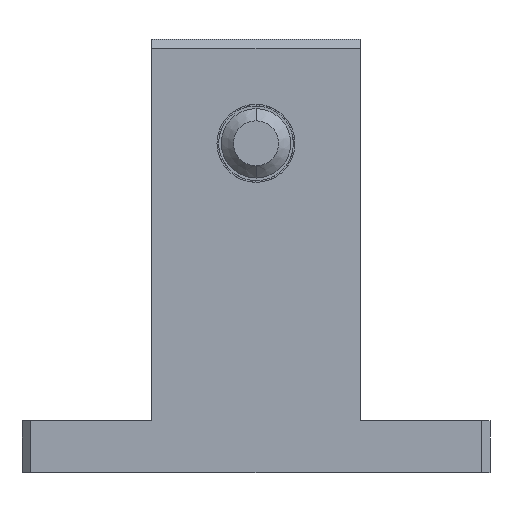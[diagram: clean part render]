
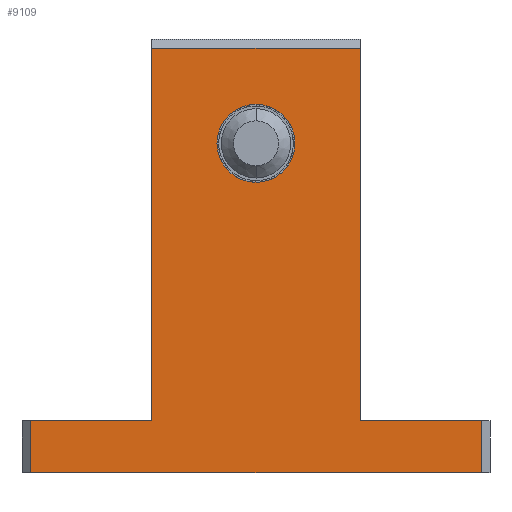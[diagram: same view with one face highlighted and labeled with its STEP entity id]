
A CAD part, front view. The second image highlights one B-rep face of the part: STEP entity #9109.
In plain terms, the highlighted planar face has unit normal (0, -1, 0).
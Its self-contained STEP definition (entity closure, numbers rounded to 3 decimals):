
#55 = VERTEX_POINT ( 'NONE', #5987 ) ;
#174 = DIRECTION ( 'NONE',  ( 1., 0., 0. ) ) ;
#234 = FACE_OUTER_BOUND ( 'NONE', #9952, .T. ) ;
#367 = CARTESIAN_POINT ( 'NONE',  ( -2.006, 12.932, 4.25 ) ) ;
#671 = VECTOR ( 'NONE', #11579, 1000. ) ;
#686 = DIRECTION ( 'NONE',  ( 0., 0., 1. ) ) ;
#784 = DIRECTION ( 'NONE',  ( 0., 0., 1. ) ) ;
#842 = VECTOR ( 'NONE', #3849, 1000. ) ;
#907 = DIRECTION ( 'NONE',  ( 0., -1., 0. ) ) ;
#1164 = DIRECTION ( 'NONE',  ( 0., 0., 1. ) ) ;
#1353 = EDGE_CURVE ( 'NONE', #8948, #9796, #7242, .T. ) ;
#1359 = VERTEX_POINT ( 'NONE', #9876 ) ;
#1493 = CARTESIAN_POINT ( 'NONE',  ( -2.006, 12.932, -12.5 ) ) ;
#1949 = CARTESIAN_POINT ( 'NONE',  ( -2.006, 12.932, 6.5 ) ) ;
#1982 = ORIENTED_EDGE ( 'NONE', *, *, #3256, .T. ) ;
#1987 = CIRCLE ( 'NONE', #3393, 2.25 ) ;
#2103 = VECTOR ( 'NONE', #1164, 1000. ) ;
#2620 = FACE_BOUND ( 'NONE', #10262, .T. ) ;
#2760 = VECTOR ( 'NONE', #174, 1000. ) ;
#2803 = LINE ( 'NONE', #11362, #5308 ) ;
#2858 = DIRECTION ( 'NONE',  ( 0., 0., 1. ) ) ;
#2940 = ORIENTED_EDGE ( 'NONE', *, *, #5292, .F. ) ;
#3002 = CARTESIAN_POINT ( 'NONE',  ( -15.006, 12.932, -9.5 ) ) ;
#3060 = CARTESIAN_POINT ( 'NONE',  ( 10.994, 12.932, -9.5 ) ) ;
#3125 = CARTESIAN_POINT ( 'NONE',  ( 3.994, 12.932, -9.5 ) ) ;
#3256 = EDGE_CURVE ( 'NONE', #7042, #9073, #7763, .T. ) ;
#3393 = AXIS2_PLACEMENT_3D ( 'NONE', #1949, #8484, #2858 ) ;
#3513 = AXIS2_PLACEMENT_3D ( 'NONE', #11741, #6201, #686 ) ;
#3576 = EDGE_CURVE ( 'NONE', #8948, #6788, #2803, .T. ) ;
#3672 = ORIENTED_EDGE ( 'NONE', *, *, #5838, .T. ) ;
#3830 = VERTEX_POINT ( 'NONE', #4106 ) ;
#3849 = DIRECTION ( 'NONE',  ( -1., 0., 0. ) ) ;
#4026 = EDGE_CURVE ( 'NONE', #7042, #3830, #7744, .T. ) ;
#4106 = CARTESIAN_POINT ( 'NONE',  ( 3.994, 12.932, 12. ) ) ;
#4259 = CARTESIAN_POINT ( 'NONE',  ( -8.006, 12.932, 12. ) ) ;
#4533 = AXIS2_PLACEMENT_3D ( 'NONE', #6433, #907, #7380 ) ;
#5239 = EDGE_CURVE ( 'NONE', #9073, #8174, #5765, .T. ) ;
#5292 = EDGE_CURVE ( 'NONE', #1359, #8174, #11686, .T. ) ;
#5308 = VECTOR ( 'NONE', #11776, 1000. ) ;
#5383 = CARTESIAN_POINT ( 'NONE',  ( 3.994, 12.932, 1.5 ) ) ;
#5604 = DIRECTION ( 'NONE',  ( -1., 0., 0. ) ) ;
#5640 = CARTESIAN_POINT ( 'NONE',  ( 7.744, 12.932, -9.5 ) ) ;
#5765 = LINE ( 'NONE', #9480, #842 ) ;
#5785 = CARTESIAN_POINT ( 'NONE',  ( -15.006, 12.932, -0.25 ) ) ;
#5838 = EDGE_CURVE ( 'NONE', #9796, #3830, #10072, .T. ) ;
#5987 = CARTESIAN_POINT ( 'NONE',  ( -2.006, 12.932, 8.75 ) ) ;
#6125 = PLANE ( 'NONE',  #3513 ) ;
#6201 = DIRECTION ( 'NONE',  ( 0., 1., 0. ) ) ;
#6390 = EDGE_CURVE ( 'NONE', #11764, #55, #1987, .T. ) ;
#6433 = CARTESIAN_POINT ( 'NONE',  ( -2.006, 12.932, 6.5 ) ) ;
#6788 = VERTEX_POINT ( 'NONE', #9461 ) ;
#6944 = VECTOR ( 'NONE', #5604, 1000. ) ;
#7042 = VERTEX_POINT ( 'NONE', #4259 ) ;
#7088 = ORIENTED_EDGE ( 'NONE', *, *, #6390, .F. ) ;
#7242 = LINE ( 'NONE', #5640, #6944 ) ;
#7380 = DIRECTION ( 'NONE',  ( 0., 0., 1. ) ) ;
#7418 = ORIENTED_EDGE ( 'NONE', *, *, #9246, .F. ) ;
#7590 = VECTOR ( 'NONE', #784, 1000. ) ;
#7744 = LINE ( 'NONE', #10338, #2760 ) ;
#7763 = LINE ( 'NONE', #8556, #671 ) ;
#7997 = DIRECTION ( 'NONE',  ( -1., 0., 0. ) ) ;
#8174 = VERTEX_POINT ( 'NONE', #3002 ) ;
#8197 = CIRCLE ( 'NONE', #4533, 2.25 ) ;
#8474 = LINE ( 'NONE', #1493, #10623 ) ;
#8484 = DIRECTION ( 'NONE',  ( 0., -1., 0. ) ) ;
#8556 = CARTESIAN_POINT ( 'NONE',  ( -8.006, 12.932, 1.5 ) ) ;
#8948 = VERTEX_POINT ( 'NONE', #3060 ) ;
#9073 = VERTEX_POINT ( 'NONE', #11666 ) ;
#9109 = ADVANCED_FACE ( 'NONE', ( #2620, #234 ), #6125, .F. ) ;
#9246 = EDGE_CURVE ( 'NONE', #55, #11764, #8197, .T. ) ;
#9461 = CARTESIAN_POINT ( 'NONE',  ( 10.994, 12.932, -12.5 ) ) ;
#9480 = CARTESIAN_POINT ( 'NONE',  ( -11.756, 12.932, -9.5 ) ) ;
#9527 = ORIENTED_EDGE ( 'NONE', *, *, #3576, .F. ) ;
#9796 = VERTEX_POINT ( 'NONE', #3125 ) ;
#9876 = CARTESIAN_POINT ( 'NONE',  ( -15.006, 12.932, -12.5 ) ) ;
#9898 = ORIENTED_EDGE ( 'NONE', *, *, #1353, .T. ) ;
#9952 = EDGE_LOOP ( 'NONE', ( #9527, #9898, #3672, #11881, #1982, #10125, #2940, #11097 ) ) ;
#9993 = EDGE_CURVE ( 'NONE', #6788, #1359, #8474, .T. ) ;
#10072 = LINE ( 'NONE', #5383, #7590 ) ;
#10125 = ORIENTED_EDGE ( 'NONE', *, *, #5239, .T. ) ;
#10262 = EDGE_LOOP ( 'NONE', ( #7418, #7088 ) ) ;
#10338 = CARTESIAN_POINT ( 'NONE',  ( -2.006, 12.932, 12. ) ) ;
#10623 = VECTOR ( 'NONE', #7997, 1000. ) ;
#11097 = ORIENTED_EDGE ( 'NONE', *, *, #9993, .F. ) ;
#11362 = CARTESIAN_POINT ( 'NONE',  ( 10.994, 12.932, -0.25 ) ) ;
#11579 = DIRECTION ( 'NONE',  ( 0., 0., -1. ) ) ;
#11666 = CARTESIAN_POINT ( 'NONE',  ( -8.006, 12.932, -9.5 ) ) ;
#11686 = LINE ( 'NONE', #5785, #2103 ) ;
#11741 = CARTESIAN_POINT ( 'NONE',  ( -15.006, 12.932, -12.5 ) ) ;
#11764 = VERTEX_POINT ( 'NONE', #367 ) ;
#11776 = DIRECTION ( 'NONE',  ( 0., 0., -1. ) ) ;
#11881 = ORIENTED_EDGE ( 'NONE', *, *, #4026, .F. ) ;
